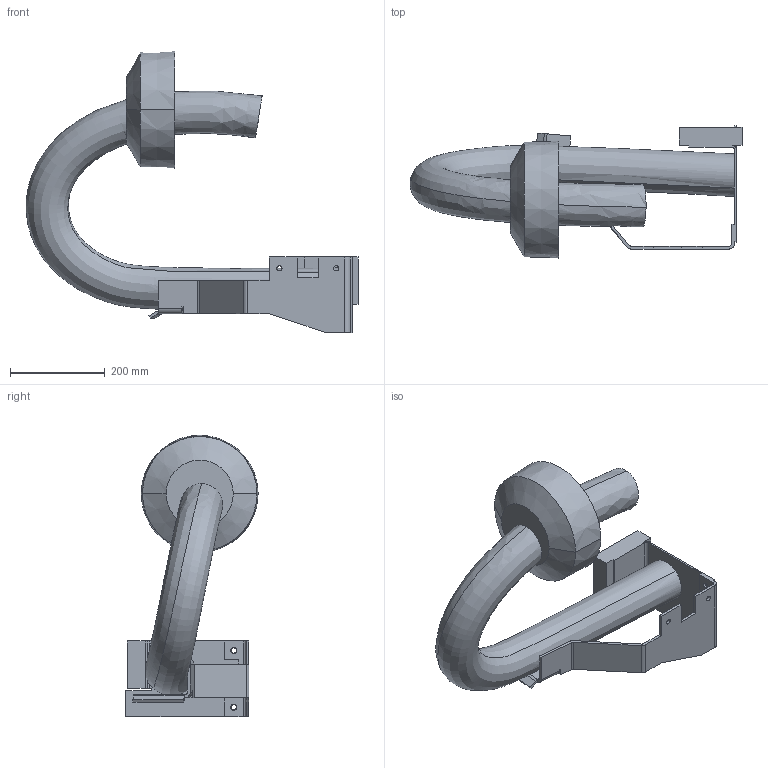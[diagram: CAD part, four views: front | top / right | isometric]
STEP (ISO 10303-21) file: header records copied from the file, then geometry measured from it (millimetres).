
FILE_DESCRIPTION (( 'STEP AP214' ), '1' );
FILE_NAME ('IRB6700-SW6_145-320_IRC5_rev01_LINK03b_CABLE.STEP', '2021-07-08T09:23:50', ( '' ), ( '' ), 'SwSTEP 2.0', 'SolidWorks 2020', '' );
FILE_SCHEMA (( 'AUTOMOTIVE_DESIGN' ));
Length unit declared in the file: millimetre
Products named in the file (1): IRB6700-SW6_145-320_IRC5_rev01_LINK03b_CABLE
Bounding box: 701.15 x 279.5 x 594.5 mm (x, y, z)
Volume: 12770319.1 mm3; surface area: 706764.3 mm2
Topology: 1 solids, 1 shells, 94 faces, 252 edges, 166 vertices
Faces by surface type: plane 55, cylinder 31, bspline 4, cone 4
Entity records: 14684 total; most frequent: CARTESIAN_POINT 12030, ORIENTED_EDGE 504, DIRECTION 487, EDGE_CURVE 252, LINE 167, VECTOR 167, VERTEX_POINT 166, AXIS2_PLACEMENT_3D 160
